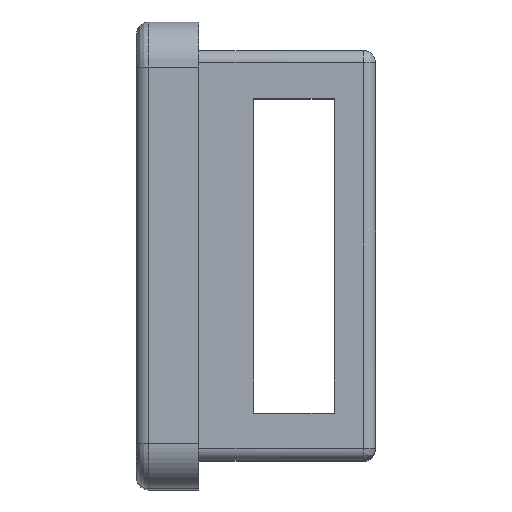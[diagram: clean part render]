
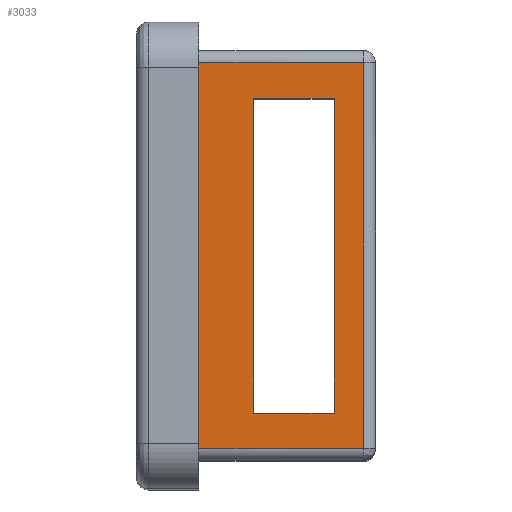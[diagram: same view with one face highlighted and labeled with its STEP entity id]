
A CAD part, top view. The second image highlights one B-rep face of the part: STEP entity #3033.
In plain terms, the highlighted free-form (B-spline) face has degree [1, 1] with [2, 2] control points.
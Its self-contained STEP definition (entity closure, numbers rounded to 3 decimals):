
#310=CARTESIAN_POINT('',(2.56,-7.9,29.079));
#311=VERTEX_POINT('',#310);
#330=CARTESIAN_POINT('',(2.56,7.9,29.079));
#331=VERTEX_POINT('',#330);
#332=CARTESIAN_POINT('',(2.56,7.9,29.079));
#333=CARTESIAN_POINT('',(2.56,4.74,29.079));
#334=CARTESIAN_POINT('',(2.56,1.58,29.079));
#335=CARTESIAN_POINT('',(2.56,-1.58,29.079));
#336=CARTESIAN_POINT('',(2.56,-4.74,29.079));
#337=CARTESIAN_POINT('',(2.56,-7.9,29.079));
#338=B_SPLINE_CURVE_WITH_KNOTS('',5,(#332,#333,#334,#335,#336,#337),.UNSPECIFIED.,.F.,.U.,(6,6),(0.,15.8),.UNSPECIFIED.);
#339=EDGE_CURVE('',#331,#311,#338,.T.);
#2160=CARTESIAN_POINT('',(9.3,7.9,29.079));
#2161=VERTEX_POINT('',#2160);
#2267=CARTESIAN_POINT('',(2.56,7.9,29.079));
#2268=CARTESIAN_POINT('',(3.908,7.9,29.079));
#2269=CARTESIAN_POINT('',(5.256,7.9,29.079));
#2270=CARTESIAN_POINT('',(6.604,7.9,29.079));
#2271=CARTESIAN_POINT('',(7.952,7.9,29.079));
#2272=CARTESIAN_POINT('',(9.3,7.9,29.079));
#2273=B_SPLINE_CURVE_WITH_KNOTS('',5,(#2267,#2268,#2269,#2270,#2271,#2272),.UNSPECIFIED.,.F.,.U.,(6,6),(0.,6.74),.UNSPECIFIED.);
#2274=EDGE_CURVE('',#331,#2161,#2273,.T.);
#2337=CARTESIAN_POINT('',(9.3,-7.9,29.079));
#2338=VERTEX_POINT('',#2337);
#2400=CARTESIAN_POINT('',(9.3,7.9,29.079));
#2401=CARTESIAN_POINT('',(9.3,4.74,29.079));
#2402=CARTESIAN_POINT('',(9.3,1.58,29.079));
#2403=CARTESIAN_POINT('',(9.3,-1.58,29.079));
#2404=CARTESIAN_POINT('',(9.3,-4.74,29.079));
#2405=CARTESIAN_POINT('',(9.3,-7.9,29.079));
#2406=B_SPLINE_CURVE_WITH_KNOTS('',5,(#2400,#2401,#2402,#2403,#2404,#2405),.UNSPECIFIED.,.F.,.U.,(6,6),(0.,15.8),.UNSPECIFIED.);
#2407=EDGE_CURVE('',#2161,#2338,#2406,.T.);
#2434=CARTESIAN_POINT('',(9.3,-7.9,29.079));
#2435=CARTESIAN_POINT('',(7.952,-7.9,29.079));
#2436=CARTESIAN_POINT('',(6.604,-7.9,29.079));
#2437=CARTESIAN_POINT('',(5.256,-7.9,29.079));
#2438=CARTESIAN_POINT('',(3.908,-7.9,29.079));
#2439=CARTESIAN_POINT('',(2.56,-7.9,29.079));
#2440=B_SPLINE_CURVE_WITH_KNOTS('',5,(#2434,#2435,#2436,#2437,#2438,#2439),.UNSPECIFIED.,.F.,.U.,(6,6),(0.,6.74),.UNSPECIFIED.);
#2441=EDGE_CURVE('',#2338,#311,#2440,.T.);
#2767=CARTESIAN_POINT('',(4.802,-6.456,29.079));
#2768=VERTEX_POINT('',#2767);
#2780=CARTESIAN_POINT('',(4.802,6.444,29.079));
#2781=VERTEX_POINT('',#2780);
#2782=CARTESIAN_POINT('',(4.802,-6.456,29.079));
#2783=CARTESIAN_POINT('',(4.802,-3.876,29.079));
#2784=CARTESIAN_POINT('',(4.802,-1.296,29.079));
#2785=CARTESIAN_POINT('',(4.802,1.284,29.079));
#2786=CARTESIAN_POINT('',(4.802,3.864,29.079));
#2787=CARTESIAN_POINT('',(4.802,6.444,29.079));
#2788=B_SPLINE_CURVE_WITH_KNOTS('',5,(#2782,#2783,#2784,#2785,#2786,#2787),.UNSPECIFIED.,.F.,.U.,(6,6),(0.,12.9),.UNSPECIFIED.);
#2789=EDGE_CURVE('',#2768,#2781,#2788,.T.);
#2819=CARTESIAN_POINT('',(8.102,-6.456,29.079));
#2820=VERTEX_POINT('',#2819);
#2832=CARTESIAN_POINT('',(8.102,-6.456,29.079));
#2833=CARTESIAN_POINT('',(7.442,-6.456,29.079));
#2834=CARTESIAN_POINT('',(6.782,-6.456,29.079));
#2835=CARTESIAN_POINT('',(6.122,-6.456,29.079));
#2836=CARTESIAN_POINT('',(5.462,-6.456,29.079));
#2837=CARTESIAN_POINT('',(4.802,-6.456,29.079));
#2838=B_SPLINE_CURVE_WITH_KNOTS('',5,(#2832,#2833,#2834,#2835,#2836,#2837),.UNSPECIFIED.,.F.,.U.,(6,6),(0.,3.3),.UNSPECIFIED.);
#2839=EDGE_CURVE('',#2820,#2768,#2838,.T.);
#2859=CARTESIAN_POINT('',(8.102,6.444,29.079));
#2860=VERTEX_POINT('',#2859);
#2872=CARTESIAN_POINT('',(8.102,6.444,29.079));
#2873=CARTESIAN_POINT('',(8.102,3.864,29.079));
#2874=CARTESIAN_POINT('',(8.102,1.284,29.079));
#2875=CARTESIAN_POINT('',(8.102,-1.296,29.079));
#2876=CARTESIAN_POINT('',(8.102,-3.876,29.079));
#2877=CARTESIAN_POINT('',(8.102,-6.456,29.079));
#2878=B_SPLINE_CURVE_WITH_KNOTS('',5,(#2872,#2873,#2874,#2875,#2876,#2877),.UNSPECIFIED.,.F.,.U.,(6,6),(0.,12.9),.UNSPECIFIED.);
#2879=EDGE_CURVE('',#2860,#2820,#2878,.T.);
#2900=CARTESIAN_POINT('',(4.802,6.444,29.079));
#2901=CARTESIAN_POINT('',(5.462,6.444,29.079));
#2902=CARTESIAN_POINT('',(6.122,6.444,29.079));
#2903=CARTESIAN_POINT('',(6.782,6.444,29.079));
#2904=CARTESIAN_POINT('',(7.442,6.444,29.079));
#2905=CARTESIAN_POINT('',(8.102,6.444,29.079));
#2906=B_SPLINE_CURVE_WITH_KNOTS('',5,(#2900,#2901,#2902,#2903,#2904,#2905),.UNSPECIFIED.,.F.,.U.,(6,6),(0.,3.3),.UNSPECIFIED.);
#2907=EDGE_CURVE('',#2781,#2860,#2906,.T.);
#3016=CARTESIAN_POINT('',(9.3,7.9,29.079));
#3017=CARTESIAN_POINT('',(9.3,-7.9,29.079));
#3018=CARTESIAN_POINT('',(2.56,7.9,29.079));
#3019=CARTESIAN_POINT('',(2.56,-7.9,29.079));
#3020=B_SPLINE_SURFACE_WITH_KNOTS('',1,1,((#3016,#3017),(#3018,#3019)),.PLANE_SURF.,.F.,.F.,.U.,(2,2),(2,2),(0.,6.74),(0.,15.8),.UNSPECIFIED.);
#3021=ORIENTED_EDGE('',*,*,#2274,.F.);
#3022=ORIENTED_EDGE('',*,*,#339,.T.);
#3023=ORIENTED_EDGE('',*,*,#2441,.F.);
#3024=ORIENTED_EDGE('',*,*,#2407,.F.);
#3025=EDGE_LOOP('',(#3021,#3022,#3023,#3024));
#3026=FACE_OUTER_BOUND('',#3025,.T.);
#3027=ORIENTED_EDGE('',*,*,#2879,.T.);
#3028=ORIENTED_EDGE('',*,*,#2839,.T.);
#3029=ORIENTED_EDGE('',*,*,#2789,.T.);
#3030=ORIENTED_EDGE('',*,*,#2907,.T.);
#3031=EDGE_LOOP('',(#3027,#3028,#3029,#3030));
#3032=FACE_BOUND('',#3031,.T.);
#3033=ADVANCED_FACE('',(#3026,#3032),#3020,.T.);
